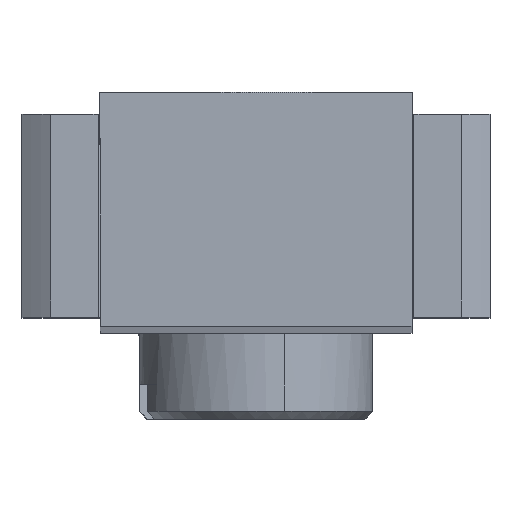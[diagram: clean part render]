
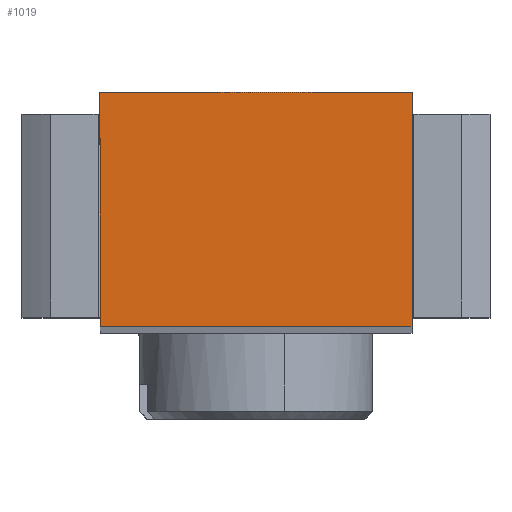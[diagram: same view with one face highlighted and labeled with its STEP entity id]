
A CAD part, top view. The second image highlights one B-rep face of the part: STEP entity #1019.
In plain terms, the highlighted planar face has unit normal (0, 0, 1).
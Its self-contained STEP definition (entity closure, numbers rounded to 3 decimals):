
#64 = ORIENTED_EDGE ( 'NONE', *, *, #1184, .T. ) ;
#87 = CARTESIAN_POINT ( 'NONE',  ( 2., 1.47, 2.163 ) ) ;
#129 = VERTEX_POINT ( 'NONE', #1229 ) ;
#137 = CARTESIAN_POINT ( 'NONE',  ( -2., 1.47, 2.163 ) ) ;
#158 = DIRECTION ( 'NONE',  ( -1., 0., 0. ) ) ;
#206 = CARTESIAN_POINT ( 'NONE',  ( 2., 1.47, 2.163 ) ) ;
#213 = EDGE_CURVE ( 'NONE', #1634, #451, #1325, .T. ) ;
#255 = EDGE_CURVE ( 'NONE', #298, #1634, #1243, .T. ) ;
#298 = VERTEX_POINT ( 'NONE', #206 ) ;
#332 = CARTESIAN_POINT ( 'NONE',  ( 2., 1.47, 2.163 ) ) ;
#364 = AXIS2_PLACEMENT_3D ( 'NONE', #1406, #767, #494 ) ;
#443 = CARTESIAN_POINT ( 'NONE',  ( -2., -1.53, 2.163 ) ) ;
#451 = VERTEX_POINT ( 'NONE', #443 ) ;
#494 = DIRECTION ( 'NONE',  ( 1., 0., 0. ) ) ;
#503 = EDGE_CURVE ( 'NONE', #451, #129, #1119, .T. ) ;
#665 = VECTOR ( 'NONE', #1302, 1000. ) ;
#704 = DIRECTION ( 'NONE',  ( 0., -1., 0. ) ) ;
#706 = LINE ( 'NONE', #332, #665 ) ;
#767 = DIRECTION ( 'NONE',  ( 0., 0., 1. ) ) ;
#810 = FACE_OUTER_BOUND ( 'NONE', #929, .T. ) ;
#929 = EDGE_LOOP ( 'NONE', ( #64, #1290, #1576, #1544 ) ) ;
#951 = CARTESIAN_POINT ( 'NONE',  ( -2., 1.47, 2.163 ) ) ;
#1019 = ADVANCED_FACE ( 'NONE', ( #810 ), #1300, .T. ) ;
#1111 = CARTESIAN_POINT ( 'NONE',  ( -2., -1.53, 2.163 ) ) ;
#1117 = VECTOR ( 'NONE', #1236, 1000. ) ;
#1119 = LINE ( 'NONE', #1111, #1117 ) ;
#1184 = EDGE_CURVE ( 'NONE', #129, #298, #706, .T. ) ;
#1229 = CARTESIAN_POINT ( 'NONE',  ( 2., -1.53, 2.163 ) ) ;
#1236 = DIRECTION ( 'NONE',  ( 1., 0., 0. ) ) ;
#1240 = VECTOR ( 'NONE', #158, 1000. ) ;
#1243 = LINE ( 'NONE', #87, #1240 ) ;
#1290 = ORIENTED_EDGE ( 'NONE', *, *, #255, .T. ) ;
#1300 = PLANE ( 'NONE',  #364 ) ;
#1302 = DIRECTION ( 'NONE',  ( 0., 1., 0. ) ) ;
#1311 = VECTOR ( 'NONE', #704, 1000. ) ;
#1325 = LINE ( 'NONE', #951, #1311 ) ;
#1406 = CARTESIAN_POINT ( 'NONE',  ( 2., -1.53, 2.163 ) ) ;
#1544 = ORIENTED_EDGE ( 'NONE', *, *, #503, .T. ) ;
#1576 = ORIENTED_EDGE ( 'NONE', *, *, #213, .T. ) ;
#1634 = VERTEX_POINT ( 'NONE', #137 ) ;
